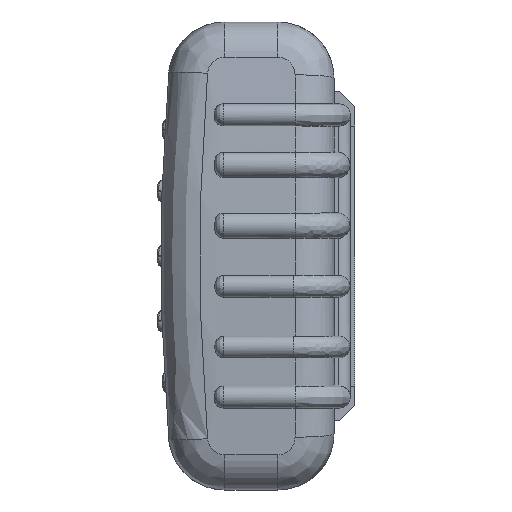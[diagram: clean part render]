
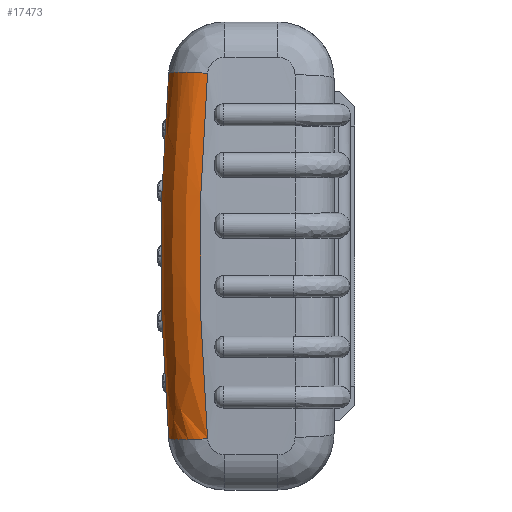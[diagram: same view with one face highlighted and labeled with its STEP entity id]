
A CAD part, left-side view. The second image highlights one B-rep face of the part: STEP entity #17473.
In plain terms, the highlighted free-form (B-spline) face has degree [3, 2] with [6, 3] control points.
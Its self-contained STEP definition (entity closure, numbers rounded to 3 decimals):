
#1161 = CARTESIAN_POINT ( 'NONE',  ( 89.121, 39.941, 14.469 ) ) ;
#3714 = CARTESIAN_POINT ( 'NONE',  ( 78.259, 29.188, -41.339 ) ) ;
#4708 = CARTESIAN_POINT ( 'NONE',  ( 87.222, 29.188, -42.148 ) ) ;
#5228 = CARTESIAN_POINT ( 'NONE',  ( 78.259, 38.156, 42.101 ) ) ;
#5878 = CARTESIAN_POINT ( 'NONE',  ( 89.121, 30.941, -14.212 ) ) ;
#6592 = VERTEX_POINT ( 'NONE', #51575 ) ;
#7622 =( BOUNDED_SURFACE ( )  B_SPLINE_SURFACE ( 3, 2, ( 
 ( #19482, #47373, #19688 ),
 ( #52068, #24350, #56711 ),
 ( #28979, #1161, #33631 ),
 ( #5878, #38252, #10554 ),
 ( #42946, #15243, #47574 ),
 ( #19881, #52283, #24549 ) ),
 .UNSPECIFIED., .F., .F., .F. ) 
 B_SPLINE_SURFACE_WITH_KNOTS ( ( 4, 2, 4 ),
 ( 3, 3 ),
 ( 0.084, 0.125, 0.166 ),
 ( 0., 1. ),
 .UNSPECIFIED. ) 
 GEOMETRIC_REPRESENTATION_ITEM ( )  RATIONAL_B_SPLINE_SURFACE ( (
 ( 1., 0.71, 1.),
 ( 1., 0.708, 1.),
 ( 1., 0.707, 1.),
 ( 1., 0.707, 1.),
 ( 1., 0.708, 1.),
 ( 1., 0.71, 1.) ) ) 
 REPRESENTATION_ITEM ( '' )  SURFACE ( )  );
#8394 = DIRECTION ( 'NONE',  ( 0.996, 0., -0.09 ) ) ;
#9016 = CARTESIAN_POINT ( 'NONE',  ( 79.497, 39.343, 28.135 ) ) ;
#10554 = CARTESIAN_POINT ( 'NONE',  ( 80.121, 39.941, -14.196 ) ) ;
#10750 = VERTEX_POINT ( 'NONE', #5228 ) ;
#11806 = AXIS2_PLACEMENT_3D ( 'NONE', #48778, #21080, #53454 ) ;
#15243 = CARTESIAN_POINT ( 'NONE',  ( 88.456, 39.314, -28.734 ) ) ;
#17173 = CARTESIAN_POINT ( 'NONE',  ( 89.121, 30.941, -14.107 ) ) ;
#17473 = ADVANCED_FACE ( 'NONE', ( #38695 ), #7622, .T. ) ;
#18367 = CARTESIAN_POINT ( 'NONE',  ( 80.121, 39.941, 14.101 ) ) ;
#18607 = EDGE_CURVE ( 'NONE', #10750, #6592, #50918, .T. ) ;
#19482 = CARTESIAN_POINT ( 'NONE',  ( 87.222, 29.188, 42.148 ) ) ;
#19688 = CARTESIAN_POINT ( 'NONE',  ( 78.259, 38.156, 42.101 ) ) ;
#19881 = CARTESIAN_POINT ( 'NONE',  ( 87.222, 29.188, -42.148 ) ) ;
#20065 = VERTEX_POINT ( 'NONE', #4708 ) ;
#21080 = DIRECTION ( 'NONE',  ( 0.09, 0.084, -0.992 ) ) ;
#21805 = CARTESIAN_POINT ( 'NONE',  ( 88.486, 30.354, 28.156 ) ) ;
#23008 = CARTESIAN_POINT ( 'NONE',  ( 79.497, 39.343, -28.135 ) ) ;
#23351 = AXIS2_PLACEMENT_3D ( 'NONE', #3714, #36123, #8394 ) ;
#24350 = CARTESIAN_POINT ( 'NONE',  ( 88.456, 39.314, 28.734 ) ) ;
#24549 = CARTESIAN_POINT ( 'NONE',  ( 78.259, 38.156, -42.101 ) ) ;
#25095 = EDGE_CURVE ( 'NONE', #20065, #50240, #36884, .T. ) ;
#26687 = ORIENTED_EDGE ( 'NONE', *, *, #25095, .T. ) ;
#28979 = CARTESIAN_POINT ( 'NONE',  ( 89.121, 30.941, 14.212 ) ) ;
#30128 = EDGE_LOOP ( 'NONE', ( #47096, #26687, #39269, #59939 ) ) ;
#30245 = EDGE_CURVE ( 'NONE', #10750, #50240, #36942, .T. ) ;
#30933 = CARTESIAN_POINT ( 'NONE',  ( 87.222, 29.188, -42.148 ) ) ;
#33631 = CARTESIAN_POINT ( 'NONE',  ( 80.121, 39.941, 14.196 ) ) ;
#36123 = DIRECTION ( 'NONE',  ( 0.09, 0.084, 0.992 ) ) ;
#36406 = EDGE_CURVE ( 'NONE', #20065, #6592, #48067, .T. ) ;
#36884 = CIRCLE ( 'NONE', #23351, 9. ) ;
#36942 = B_SPLINE_CURVE_WITH_KNOTS ( 'NONE', 3,
 ( #41401, #9016, #18367, #50746, #23008, #55409 ),
 .UNSPECIFIED., .F., .F.,
 ( 4, 2, 4 ),
 ( 0.012, 0.054, 0.096 ),
 .UNSPECIFIED. ) ;
#38252 = CARTESIAN_POINT ( 'NONE',  ( 89.121, 39.941, -14.469 ) ) ;
#38695 = FACE_OUTER_BOUND ( 'NONE', #30128, .T. ) ;
#39269 = ORIENTED_EDGE ( 'NONE', *, *, #30245, .F. ) ;
#41401 = CARTESIAN_POINT ( 'NONE',  ( 78.259, 38.156, 42.101 ) ) ;
#42946 = CARTESIAN_POINT ( 'NONE',  ( 88.476, 30.346, -28.258 ) ) ;
#47096 = ORIENTED_EDGE ( 'NONE', *, *, #36406, .F. ) ;
#47373 = CARTESIAN_POINT ( 'NONE',  ( 87.154, 38.088, 42.898 ) ) ;
#47574 = CARTESIAN_POINT ( 'NONE',  ( 79.489, 39.335, -28.227 ) ) ;
#48067 = B_SPLINE_CURVE_WITH_KNOTS ( 'NONE', 3,
 ( #30933, #58636, #17173, #49531, #21805, #54197 ),
 .UNSPECIFIED., .F., .F.,
 ( 4, 2, 4 ),
 ( 0.004, 0.046, 0.088 ),
 .UNSPECIFIED. ) ;
#48122 = CARTESIAN_POINT ( 'NONE',  ( 78.259, 38.156, -42.101 ) ) ;
#48778 = CARTESIAN_POINT ( 'NONE',  ( 78.259, 29.188, 41.339 ) ) ;
#49531 = CARTESIAN_POINT ( 'NONE',  ( 89.121, 30.941, 14.107 ) ) ;
#50240 = VERTEX_POINT ( 'NONE', #48122 ) ;
#50746 = CARTESIAN_POINT ( 'NONE',  ( 80.121, 39.941, -14.101 ) ) ;
#50918 = CIRCLE ( 'NONE', #11806, 9. ) ;
#51575 = CARTESIAN_POINT ( 'NONE',  ( 87.222, 29.188, 42.148 ) ) ;
#52068 = CARTESIAN_POINT ( 'NONE',  ( 88.476, 30.346, 28.258 ) ) ;
#52283 = CARTESIAN_POINT ( 'NONE',  ( 87.154, 38.088, -42.898 ) ) ;
#53454 = DIRECTION ( 'NONE',  ( -0.996, 0., -0.09 ) ) ;
#54197 = CARTESIAN_POINT ( 'NONE',  ( 87.222, 29.188, 42.148 ) ) ;
#55409 = CARTESIAN_POINT ( 'NONE',  ( 78.259, 38.156, -42.101 ) ) ;
#56711 = CARTESIAN_POINT ( 'NONE',  ( 79.489, 39.335, 28.227 ) ) ;
#58636 = CARTESIAN_POINT ( 'NONE',  ( 88.486, 30.354, -28.156 ) ) ;
#59939 = ORIENTED_EDGE ( 'NONE', *, *, #18607, .T. ) ;
